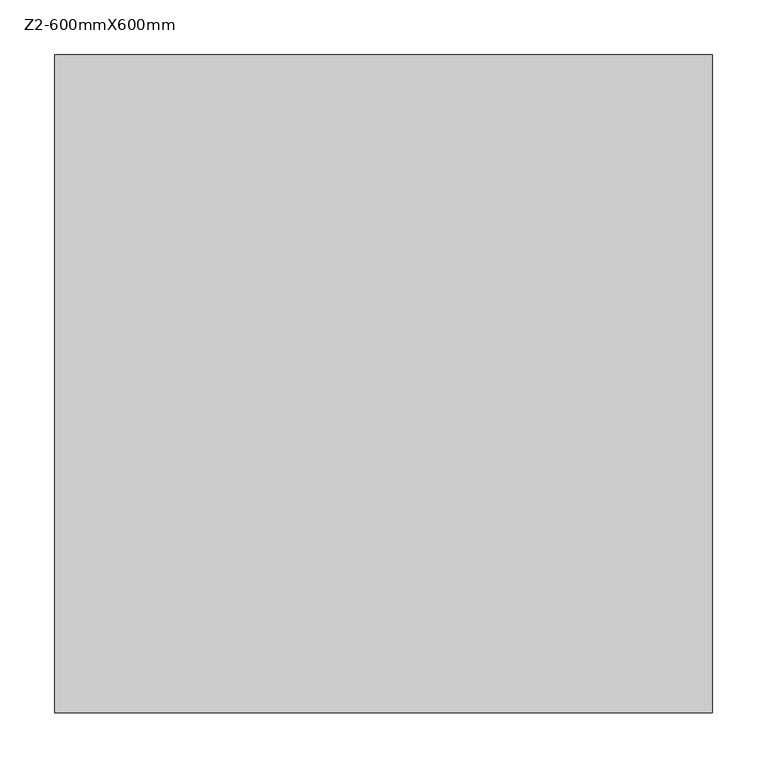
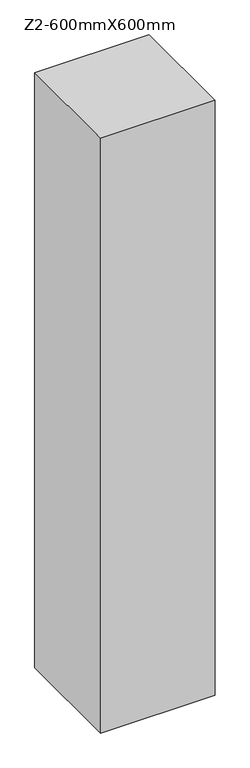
"""IFC4 building model written with IfcOpenShell, lengths in millimetres: column geometry, 混凝土 - 矩形 - 柱 : Z2-600mmX600mm."""

from ifc_helpers import new_model, si_unit, frame, origin, place, context, project, spatial, polyline, outline, extrude, source, transform, mapped, element, save


def z2_600mmx600mm_15ef50ab(model_context):
    return source(origin(), model_context, "Body", "SweptSolid", [
        extrude(outline(polyline([(300.0, 300.0), (300.0, -300.0), (-300.0, -300.0), (-300.0, 300.0), (300.0, 300.0)])), frame((0.0, 0.0, 7200.0), z_axis=(0.0, 0.0, 1.0), x_axis=(1.0, 0.0, 0.0)), (0.0, 0.0, 1.0), 3300.0),
    ])


if __name__ == "__main__":
    model = new_model("IFC4")
    model_context = context("Model", 3, world=origin())
    ifc_project = project(units=[si_unit("LENGTHUNIT", "METRE", prefix="MILLI")], contexts=[model_context])
    site = spatial("IfcSite", under=ifc_project)
    building = spatial("IfcBuilding", under=site)
    placement = place(None, origin())
    z2_600mmx600mm_shape = z2_600mmx600mm_15ef50ab(model_context)
    element("IfcColumn", 1, ObjectType="混凝土 - 矩形 - 柱 : Z2-600mmX600mm", at=placement, inside=building, context=model_context, shape_type="MappedRepresentation", body=[
        mapped(z2_600mmx600mm_shape, transform((0.0, 0.0, 0.0), x_axis=(1.0, 0.0, 0.0), y_axis=(0.0, 1.0, 0.0), z_axis=(0.0, 0.0, 1.0))),
    ])
    save(model, "model.ifc")
